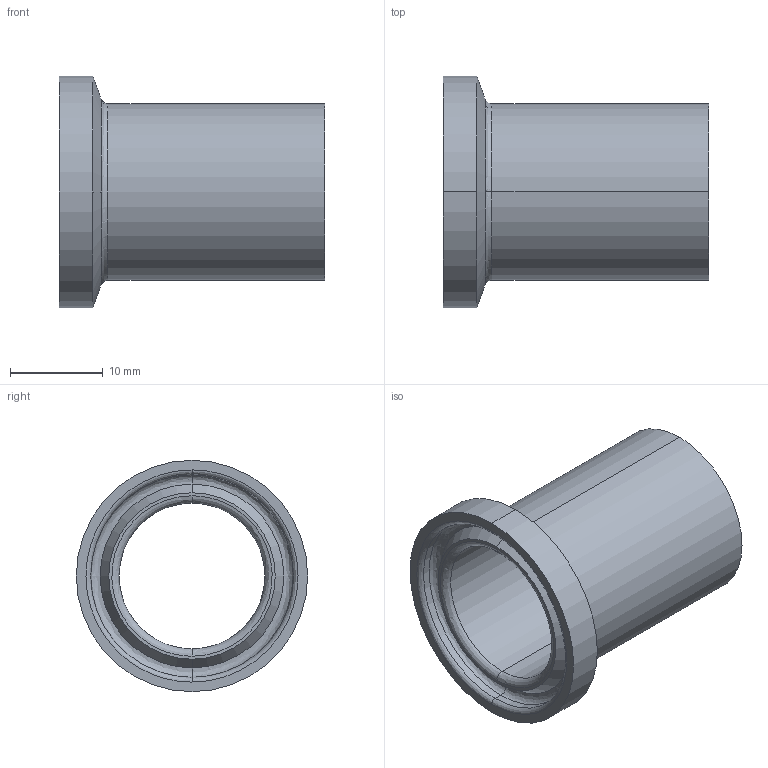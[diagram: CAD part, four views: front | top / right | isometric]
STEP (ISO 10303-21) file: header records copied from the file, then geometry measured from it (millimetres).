
FILE_DESCRIPTION (( 'STEP AP214' ), '1' );
FILE_NAME ('TEG14BM76L.75.STEP', '2016-05-23T04:04:21', ( 'eran' ), ( '' ), 'SwSTEP 2.0', 'SolidWorks 2016', '' );
FILE_SCHEMA (( 'AUTOMOTIVE_DESIGN' ));
Length unit declared in the file: millimetre
Products named in the file (1): TEG14BM76L.75
Bounding box: 28.7 x 24.99 x 24.99 mm (x, y, z)
Volume: 3171.8 mm3; surface area: 3833.4 mm2
Topology: 1 solids, 1 shells, 23 faces, 50 edges, 30 vertices
Faces by surface type: bspline 8, cylinder 8, cone 4, plane 3
Entity records: 764 total; most frequent: CARTESIAN_POINT 236, DIRECTION 112, ORIENTED_EDGE 100, AXIS2_PLACEMENT_3D 50, EDGE_CURVE 50, CIRCLE 34, VERTEX_POINT 30, EDGE_LOOP 26
